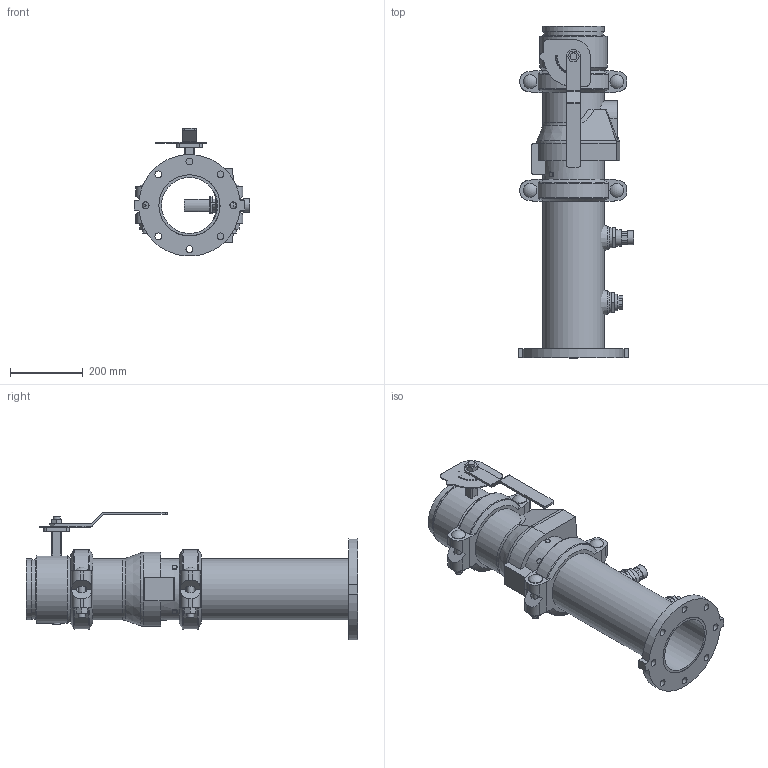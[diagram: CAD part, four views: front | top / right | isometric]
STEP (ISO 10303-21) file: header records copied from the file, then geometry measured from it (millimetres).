
FILE_DESCRIPTION(/* description */ ('VIC DVI PUMP DROP VERT S/380 (OGSxFLG) (S/924-0.75)','CAx-IF Rec.Pracs.---Representation and Presentation of Product Manufacturing Information (PMI)---4.0---2014-10-13'),/* implementation_level */ '2;1');
FILE_NAME(/* name */ 'C:\Users\Public\Documents\Victaulic.Temp\A765\Victaulic_IPS_Vertical DVI_CL 150_Series 380 (OGSxFLG)_924 (0.75)_06.0x06.0 (150x150).stp',/* time_stamp */ '2022-07-25T11:12:55+02:00',/* author */ ('Vjadhav'),/* organization */ ('Victaulic'),/* preprocessor_version */ 'ST-DEVELOPER v18',/* originating_system */ 'Autodesk Inventor 2020',/* authorisation */ '');
FILE_SCHEMA (('AP242_MANAGED_MODEL_BASED_3D_ENGINEERING_MIM_LF { 1 0 10303 442 1 1 4 }'));
Length unit declared in the file: inch
Products named in the file (8): 380_924 (0.75)-06.0x06.0; 741-06.0; Pipe-06.0x06.0; 177N-06.0; 761-06.0; 779-06.0; 923-04.0x0.75; 924-04.0x0.75
Assembly tree (8 placements, depth 2):
  380_924 (0.75)-06.0x06.0
    741-06.0
    Pipe-06.0x06.0
    177N-06.0  x2
    761-06.0
    779-06.0
    923-04.0x0.75
    924-04.0x0.75
Bounding box: 318.83 x 912.88 x 352.02 mm (x, y, z)
Volume: 9709889.6 mm3; surface area: 1598017.3 mm2
Topology: 8 solids, 9 shells, 484 faces, 1256 edges, 840 vertices
Faces by surface type: plane 283, cylinder 167, cone 14, torus 14, sphere 4, bspline 2
Full cylindrical faces by diameter (mm): 4.826 x10, 8.636 x4, 13.716 x4, 19.05 x14, 22.86 x1, 26.67 x2, 37.694 x4, 38.608 x1, 45.974 x4, 55.118 x1, 55.626 x2, 154.051 x3, 155.575 x2, 163.957 x6, 168.275 x16, 185.42 x1
Entity records: 13481 total; most frequent: CARTESIAN_POINT 2698, DIRECTION 2213, ORIENTED_EDGE 2030, EDGE_CURVE 1015, AXIS2_PLACEMENT_3D 833, VERTEX_POINT 680, LINE 547, VECTOR 547
